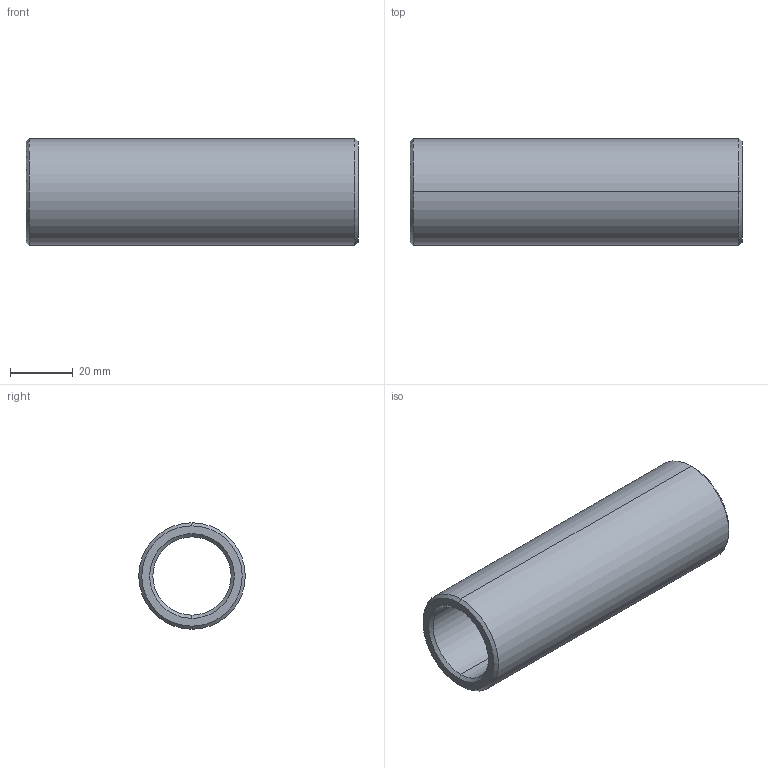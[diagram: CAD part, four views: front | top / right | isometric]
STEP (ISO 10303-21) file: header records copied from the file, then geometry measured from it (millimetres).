
FILE_DESCRIPTION(('CATIA V5 STEP Exchange'),'2;1');
FILE_NAME('C:\Users\Utente\Desktop\IO LAVORO\3D X SITO CF\X SITO\PLASTICA\352\352-25X106.stp','2021-04-14T15:06:10+00:00',('none'),('none'),'CATIA Version 5 Release 20 GA (IN-10)','CATIA V5 STEP AP203','none');
FILE_SCHEMA(('CONFIG_CONTROL_DESIGN'));
Length unit declared in the file: millimetre
Products named in the file (1): 352-25X106
Bounding box: 106 x 34 x 34 mm (x, y, z)
Volume: 44044.7 mm3; surface area: 20275.9 mm2
Topology: 1 solids, 1 shells, 14 faces, 44 edges, 32 vertices
Faces by surface type: cone 6, cylinder 4, plane 2, torus 2
Entity records: 634 total; most frequent: CARTESIAN_POINT 203, ORIENTED_EDGE 88, DIRECTION 64, EDGE_CURVE 44, AXIS2_PLACEMENT_3D 41, VERTEX_POINT 32, CIRCLE 26, EDGE_LOOP 16
